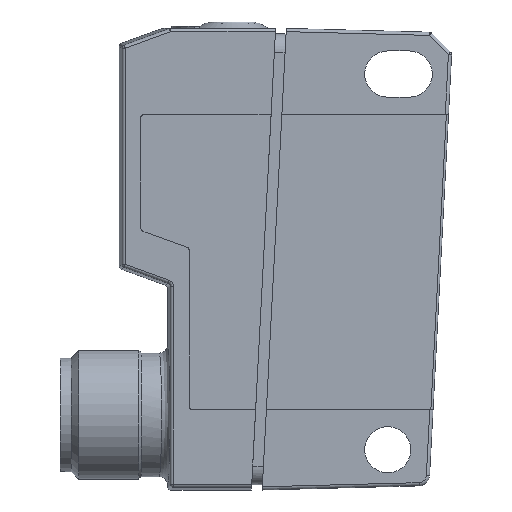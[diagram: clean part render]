
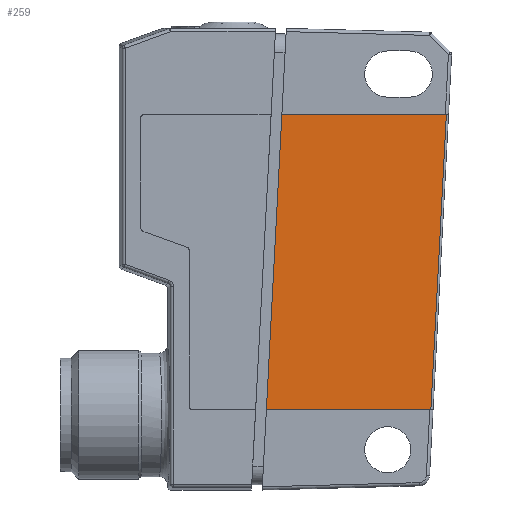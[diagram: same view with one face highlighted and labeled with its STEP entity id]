
A CAD part, front view. The second image highlights one B-rep face of the part: STEP entity #259.
In plain terms, the highlighted planar face has unit normal (0, -1, 0).
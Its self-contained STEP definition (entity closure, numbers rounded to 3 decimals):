
#259 = ADVANCED_FACE( '', ( #640 ), #641, .T. );
#640 = FACE_OUTER_BOUND( '', #1363, .T. );
#641 = PLANE( '', #1364 );
#1363 = EDGE_LOOP( '', ( #2426, #2427, #2428, #2429 ) );
#1364 = AXIS2_PLACEMENT_3D( '', #2430, #2431, #2432 );
#2426 = ORIENTED_EDGE( '', *, *, #3632, .T. );
#2427 = ORIENTED_EDGE( '', *, *, #3633, .T. );
#2428 = ORIENTED_EDGE( '', *, *, #3634, .T. );
#2429 = ORIENTED_EDGE( '', *, *, #3498, .T. );
#2430 = CARTESIAN_POINT( '', ( -11.308, -7.3, 3.75 ) );
#2431 = DIRECTION( '', ( 0., -1., 0. ) );
#2432 = DIRECTION( '', ( 0., 0., 1. ) );
#3498 = EDGE_CURVE( '', #4069, #4067, #4070, .T. );
#3632 = EDGE_CURVE( '', #4067, #4291, #4292, .T. );
#3633 = EDGE_CURVE( '', #4291, #4293, #4294, .T. );
#3634 = EDGE_CURVE( '', #4293, #4069, #4295, .T. );
#4067 = VERTEX_POINT( '', #4839 );
#4069 = VERTEX_POINT( '', #4842 );
#4070 = LINE( '', #4843, #4844 );
#4291 = VERTEX_POINT( '', #5225 );
#4292 = LINE( '', #5226, #5227 );
#4293 = VERTEX_POINT( '', #5228 );
#4294 = LINE( '', #5229, #5230 );
#4295 = LINE( '', #5231, #5232 );
#4839 = CARTESIAN_POINT( '', ( -11.308, -7.3, 3.75 ) );
#4842 = CARTESIAN_POINT( '', ( -9.866, -7.3, 31.25 ) );
#4843 = CARTESIAN_POINT( '', ( -9.866, -7.3, 31.25 ) );
#4844 = VECTOR( '', #5847, 1000. );
#5225 = CARTESIAN_POINT( '', ( 4.018, -7.3, 3.75 ) );
#5226 = CARTESIAN_POINT( '', ( -11.308, -7.3, 3.75 ) );
#5227 = VECTOR( '', #6025, 1000. );
#5228 = CARTESIAN_POINT( '', ( 5.459, -7.3, 31.25 ) );
#5229 = CARTESIAN_POINT( '', ( 3.976, -7.3, 2.949 ) );
#5230 = VECTOR( '', #6026, 1000. );
#5231 = CARTESIAN_POINT( '', ( 5.659, -7.3, 31.25 ) );
#5232 = VECTOR( '', #6027, 1000. );
#5847 = DIRECTION( '', ( -0.052, 0., -0.999 ) );
#6025 = DIRECTION( '', ( 1., 0., 0. ) );
#6026 = DIRECTION( '', ( 0.052, 0., 0.999 ) );
#6027 = DIRECTION( '', ( -1., 0., 0. ) );
